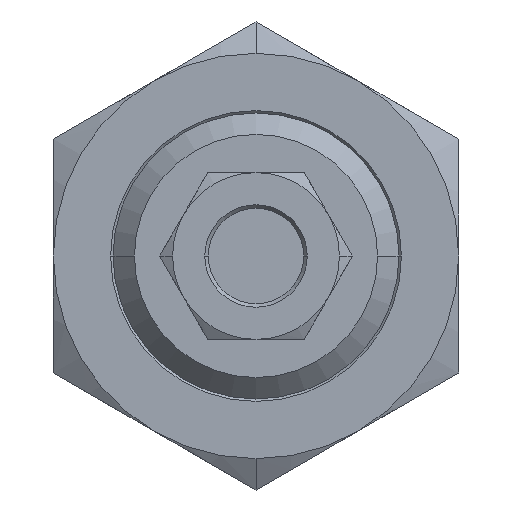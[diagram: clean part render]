
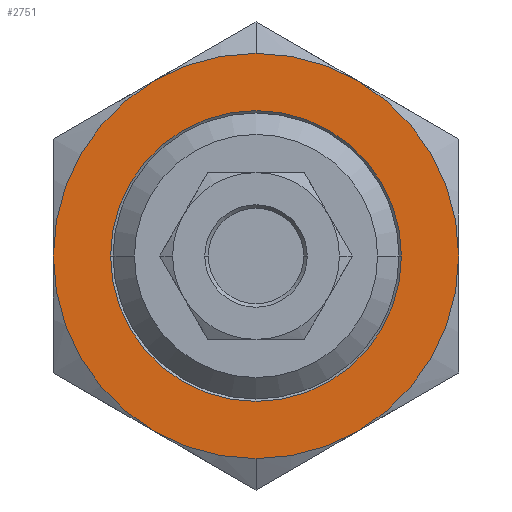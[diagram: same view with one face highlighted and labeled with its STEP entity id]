
A CAD part, front view. The second image highlights one B-rep face of the part: STEP entity #2751.
In plain terms, the highlighted planar face has unit normal (0, -1, 0) as drawn and (0, 0, 1) by its records, which use the part's own axes.
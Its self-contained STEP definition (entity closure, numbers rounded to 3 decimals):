
#1779=CARTESIAN_POINT('',(6.1,0.0,5.5));
#1780=VERTEX_POINT('',#1779);
#1788=CARTESIAN_POINT('',(-6.1,0.,5.5));
#1789=VERTEX_POINT('',#1788);
#1796=CARTESIAN_POINT('',(0.0,0.0,5.5));
#1797=DIRECTION('',(0.0,0.0,-1.0));
#1798=DIRECTION('',(1.0,0.0,0.0));
#1799=AXIS2_PLACEMENT_3D('',#1796,#1797,#1798);
#1800=CIRCLE('',#1799,6.1);
#1801=EDGE_CURVE('',#1780,#1789,#1800,.T.);
#1866=CARTESIAN_POINT('',(0.,-8.5,5.5));
#1867=VERTEX_POINT('',#1866);
#1874=CARTESIAN_POINT('',(4.25,-7.361,5.5));
#1875=VERTEX_POINT('',#1874);
#1889=CARTESIAN_POINT('',(0.0,0.0,5.5));
#1890=DIRECTION('',(0.0,0.0,1.0));
#1891=DIRECTION('',(0.0,-1.0,0.0));
#1892=AXIS2_PLACEMENT_3D('',#1889,#1890,#1891);
#1893=CIRCLE('',#1892,8.5);
#1894=EDGE_CURVE('',#1867,#1875,#1893,.T.);
#1904=CARTESIAN_POINT('',(0.,8.5,5.5));
#1905=VERTEX_POINT('',#1904);
#1914=CARTESIAN_POINT('',(4.25,7.361,5.5));
#1915=VERTEX_POINT('',#1914);
#1916=CARTESIAN_POINT('',(0.0,0.0,5.5));
#1917=DIRECTION('',(0.0,0.0,1.0));
#1918=DIRECTION('',(0.0,-1.0,0.0));
#1919=AXIS2_PLACEMENT_3D('',#1916,#1917,#1918);
#1920=CIRCLE('',#1919,8.5);
#1921=EDGE_CURVE('',#1915,#1905,#1920,.T.);
#2263=CARTESIAN_POINT('',(-4.25,7.361,5.5));
#2264=VERTEX_POINT('',#2263);
#2278=CARTESIAN_POINT('',(0.0,0.0,5.5));
#2279=DIRECTION('',(0.0,0.0,1.0));
#2280=DIRECTION('',(0.0,-1.0,0.0));
#2281=AXIS2_PLACEMENT_3D('',#2278,#2279,#2280);
#2282=CIRCLE('',#2281,8.5);
#2283=EDGE_CURVE('',#1905,#2264,#2282,.T.);
#2295=CARTESIAN_POINT('',(8.5,0.,5.5));
#2296=VERTEX_POINT('',#2295);
#2323=CARTESIAN_POINT('',(0.0,0.0,5.5));
#2324=DIRECTION('',(0.0,0.0,1.0));
#2325=DIRECTION('',(0.0,-1.0,0.0));
#2326=AXIS2_PLACEMENT_3D('',#2323,#2324,#2325);
#2327=CIRCLE('',#2326,8.5);
#2328=EDGE_CURVE('',#2296,#1915,#2327,.T.);
#2366=CARTESIAN_POINT('',(0.0,0.0,5.5));
#2367=DIRECTION('',(0.0,0.0,1.0));
#2368=DIRECTION('',(0.0,-1.0,0.0));
#2369=AXIS2_PLACEMENT_3D('',#2366,#2367,#2368);
#2370=CIRCLE('',#2369,8.5);
#2371=EDGE_CURVE('',#1875,#2296,#2370,.T.);
#2382=CARTESIAN_POINT('',(-4.25,-7.361,5.5));
#2383=VERTEX_POINT('',#2382);
#2384=CARTESIAN_POINT('',(0.0,0.0,5.5));
#2385=DIRECTION('',(0.0,0.0,1.0));
#2386=DIRECTION('',(0.0,-1.0,0.0));
#2387=AXIS2_PLACEMENT_3D('',#2384,#2385,#2386);
#2388=CIRCLE('',#2387,8.5);
#2389=EDGE_CURVE('',#2383,#1867,#2388,.T.);
#2427=CARTESIAN_POINT('',(-8.5,0.0,5.5));
#2428=VERTEX_POINT('',#2427);
#2429=CARTESIAN_POINT('',(0.0,0.0,5.5));
#2430=DIRECTION('',(0.0,0.0,1.0));
#2431=DIRECTION('',(0.0,-1.0,0.0));
#2432=AXIS2_PLACEMENT_3D('',#2429,#2430,#2431);
#2433=CIRCLE('',#2432,8.5);
#2434=EDGE_CURVE('',#2428,#2383,#2433,.T.);
#2472=CARTESIAN_POINT('',(0.0,0.0,5.5));
#2473=DIRECTION('',(0.0,0.0,1.0));
#2474=DIRECTION('',(0.0,-1.0,0.0));
#2475=AXIS2_PLACEMENT_3D('',#2472,#2473,#2474);
#2476=CIRCLE('',#2475,8.5);
#2477=EDGE_CURVE('',#2264,#2428,#2476,.T.);
#2629=CARTESIAN_POINT('',(0.0,0.0,5.5));
#2630=DIRECTION('',(0.0,0.0,-1.0));
#2631=DIRECTION('',(1.0,0.0,0.0));
#2632=AXIS2_PLACEMENT_3D('',#2629,#2630,#2631);
#2633=CIRCLE('',#2632,6.1);
#2634=EDGE_CURVE('',#1789,#1780,#2633,.T.);
#2732=CARTESIAN_POINT('',(0.,0.,5.5));
#2733=DIRECTION('',(0.0,0.0,1.0));
#2734=DIRECTION('',(1.0,0.0,0.0));
#2735=AXIS2_PLACEMENT_3D('',#2732,#2733,#2734);
#2736=PLANE('',#2735);
#2737=ORIENTED_EDGE('',*,*,#2477,.T.);
#2738=ORIENTED_EDGE('',*,*,#2434,.T.);
#2739=ORIENTED_EDGE('',*,*,#2389,.T.);
#2740=ORIENTED_EDGE('',*,*,#1894,.T.);
#2741=ORIENTED_EDGE('',*,*,#2371,.T.);
#2742=ORIENTED_EDGE('',*,*,#2328,.T.);
#2743=ORIENTED_EDGE('',*,*,#1921,.T.);
#2744=ORIENTED_EDGE('',*,*,#2283,.T.);
#2745=EDGE_LOOP('',(#2737,#2738,#2739,#2740,#2741,#2742,#2743,#2744));
#2746=FACE_OUTER_BOUND('',#2745,.T.);
#2747=ORIENTED_EDGE('',*,*,#1801,.T.);
#2748=ORIENTED_EDGE('',*,*,#2634,.T.);
#2749=EDGE_LOOP('',(#2747,#2748));
#2750=FACE_BOUND('',#2749,.T.);
#2751=ADVANCED_FACE('',(#2746,#2750),#2736,.T.);
